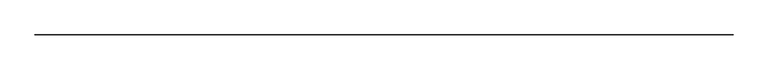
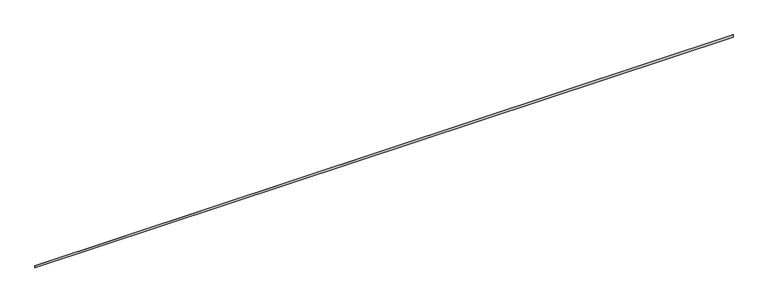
"""IFC4 building model written with IfcOpenShell, lengths in millimetres: proxy geometry, Electrical_Installation_Hager_Partition-Wall : Electrical_Installation_Hager_Partition-Wall."""

from ifc_helpers import new_model, si_unit, frame, origin, place, context, project, spatial, polyline, outline, extrude, source, transform, mapped, element, save


def electrical_fixtures_4dae3f6f(model_context):
    return source(origin(), model_context, "Body", "SweptSolid", [
        extrude(outline(polyline([(19500.1829721, 71.0), (19500.1829721, 69.0), (0.0, 69.0), (0.0, 71.0), (19500.1829721, 71.0)])), frame((0.0, 0.0, -32.5053974), z_axis=(0.0, 0.0, 1.0), x_axis=(1.0, 0.0, 0.0)), (0.0, 0.0, 1.0), 63.0),
    ])


if __name__ == "__main__":
    model = new_model("IFC4")
    model_context = context("Model", 3, world=origin())
    ifc_project = project(units=[si_unit("LENGTHUNIT", "METRE", prefix="MILLI")], contexts=[model_context])
    site = spatial("IfcSite", under=ifc_project)
    building = spatial("IfcBuilding", under=site)
    placement = place(None, origin())
    electrical_fixtures_shape = electrical_fixtures_4dae3f6f(model_context)
    element("IfcBuildingElementProxy", 1, Name="Electrical_Installation_Hager_Partition-Wall : Electrical_Installation_Hager_Partition-Wall", ObjectType="Electrical_Installation_Hager_Partition-Wall : Electrical_Installation_Hager_Partition-Wall", at=placement, inside=building, context=model_context, shape_type="MappedRepresentation", body=[
        mapped(electrical_fixtures_shape, transform((0.0, 0.0, 0.0), x_axis=(1.0, 0.0, 0.0), y_axis=(0.0, 1.0, 0.0), z_axis=(0.0, 0.0, 1.0))),
    ])
    save(model, "model.ifc")
